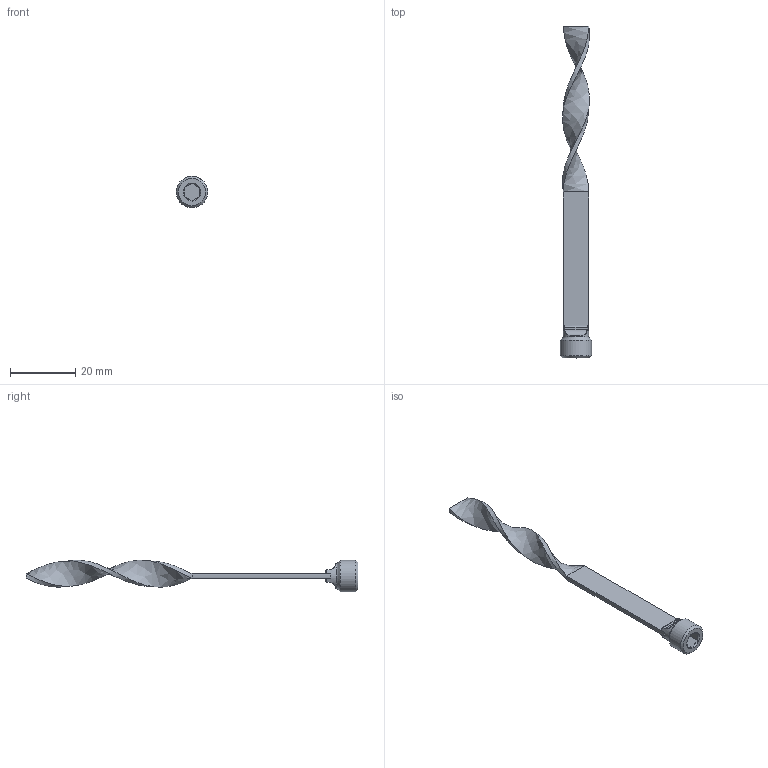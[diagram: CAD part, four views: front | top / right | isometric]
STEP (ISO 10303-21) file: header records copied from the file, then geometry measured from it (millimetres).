
FILE_DESCRIPTION(/* description */ (''),/* implementation_level */ '2;1');
FILE_NAME(/* name */ 'C:/Users/drich/Desktop/TB18X4BSP v1.step',/* time_stamp */ '2020-01-14T09:25:09-06:00',/* author */ (''),/* organization */ (''),/* preprocessor_version */ 'ST-DEVELOPER v18',/* originating_system */ 'Autodesk Translation Framework v8.12.0.6',/* authorisation */ '');
FILE_SCHEMA (('AUTOMOTIVE_DESIGN { 1 0 10303 214 3 1 1 }'));
Length unit declared in the file: inch
Products named in the file (1): TB18X4BSP
Bounding box: 9.62 x 101.6 x 9.66 mm (x, y, z)
Volume: 1499.1 mm3; surface area: 2199.7 mm2
Topology: 2 solids, 2 shells, 41 faces, 112 edges, 76 vertices
Faces by surface type: plane 21, cylinder 8, torus 5, bspline 4, cone 3
Full cylindrical faces by diameter (mm): 7.772 x1, 9.621 x1
Entity records: 1614 total; most frequent: CARTESIAN_POINT 582, ORIENTED_EDGE 224, DIRECTION 187, EDGE_CURVE 112, VERTEX_POINT 76, AXIS2_PLACEMENT_3D 69, LINE 49, VECTOR 49
